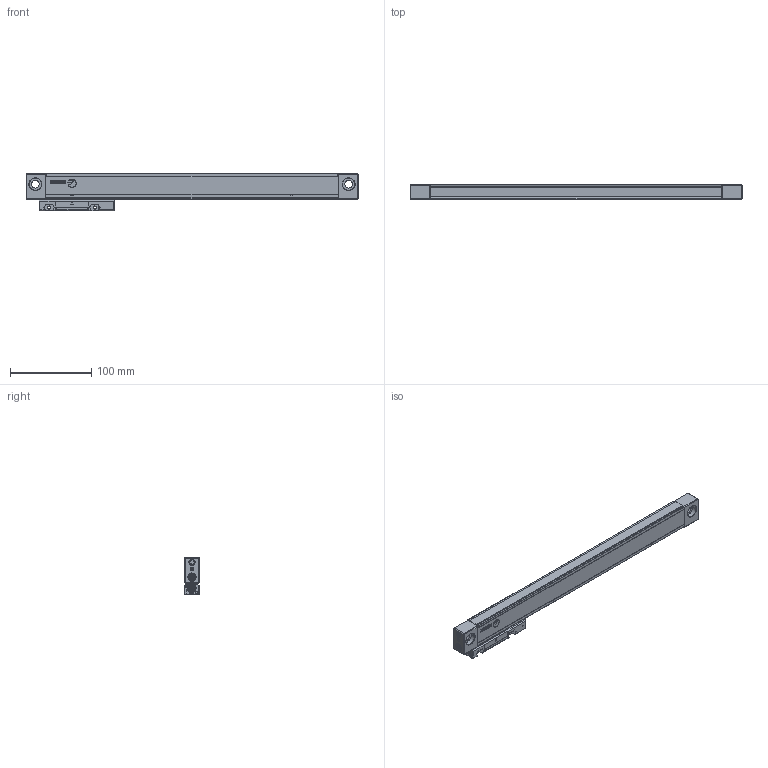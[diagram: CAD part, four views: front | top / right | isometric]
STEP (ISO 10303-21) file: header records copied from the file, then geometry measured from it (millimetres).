
FILE_DESCRIPTION(('Creo Elements/Direct Modeling STEP Export'),'2;1');
FILE_NAME('REGLA S3-270-T.stp','2020-10-07T13:05:07',(''),(''),'Creo Elements/Direct Modeling STEP processor for AP214 (Solid Model)','Creo Elements/Direct Modeling 19.0G 27-Nov-2017 (C) Parametric Technology GmbH','');
FILE_SCHEMA(('AUTOMOTIVE_DESIGN { 1 0 10303 214 1 1 1 1 }'));
Length unit declared in the file: millimetre
Products named in the file (3): REGLA_S3-270; CABEZA_ROSCADA_REGLA_S3; REGLA_S3-270-T
Assembly tree (2 placements, depth 2):
  REGLA_S3-270-T
    CABEZA_ROSCADA_REGLA_S3
    REGLA_S3-270
Bounding box: 408 x 18.3 x 46.2 mm (x, y, z)
Volume: 234783.7 mm3; surface area: 61073.9 mm2
Topology: 2 solids, 13 shells, 1471 faces, 4845 edges, 3471 vertices
Faces by surface type: plane 979, cylinder 354, cone 121, bspline 9, torus 8
Entity records: 62868 total; most frequent: CARTESIAN_POINT 12651, ORIENTED_EDGE 9674, DIRECTION 7781, EDGE_CURVE 4835, VECTOR 3661, LINE 3661, VERTEX_POINT 3471, AXIS2_PLACEMENT_3D 2060
